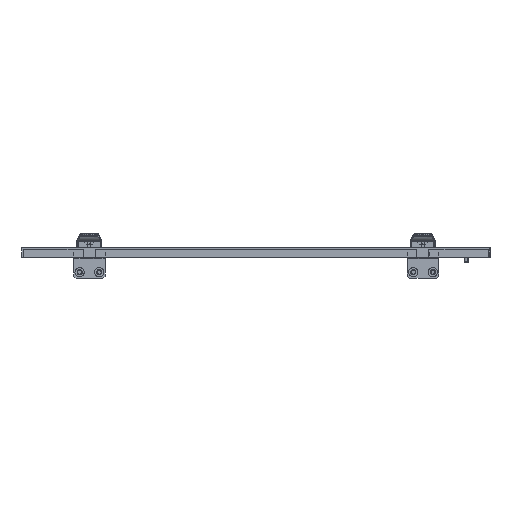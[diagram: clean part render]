
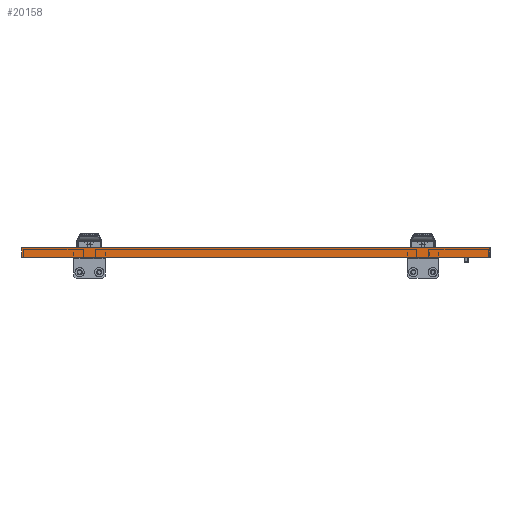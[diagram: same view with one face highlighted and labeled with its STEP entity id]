
A CAD part, left-side view. The second image highlights one B-rep face of the part: STEP entity #20158.
In plain terms, the highlighted planar face has unit normal (-1, 0, 0).
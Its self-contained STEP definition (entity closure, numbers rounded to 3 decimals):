
#18 = CARTESIAN_POINT ( 'NONE',  ( -424.77, 69.953, 998.163 ) ) ;
#1030 = VERTEX_POINT ( 'NONE', #5483 ) ;
#1496 = CARTESIAN_POINT ( 'NONE',  ( -424.77, 261.628, 985.663 ) ) ;
#1797 = CARTESIAN_POINT ( 'NONE',  ( -424.77, -228.047, 998.163 ) ) ;
#2222 = VERTEX_POINT ( 'NONE', #4362 ) ;
#2333 = ORIENTED_EDGE ( 'NONE', *, *, #9096, .T. ) ;
#3170 = CARTESIAN_POINT ( 'NONE',  ( -424.77, 261.628, 985.663 ) ) ;
#3410 = CARTESIAN_POINT ( 'NONE',  ( -424.77, 367.953, 1001.001 ) ) ;
#4362 = CARTESIAN_POINT ( 'NONE',  ( -424.77, 367.953, 985.663 ) ) ;
#4852 = VERTEX_POINT ( 'NONE', #9020 ) ;
#4937 = LINE ( 'NONE', #18, #9487 ) ;
#5025 = PLANE ( 'NONE',  #13350 ) ;
#5037 = DIRECTION ( 'NONE',  ( 0., 1., 0. ) ) ;
#5483 = CARTESIAN_POINT ( 'NONE',  ( -424.77, 367.953, 998.163 ) ) ;
#6686 = FACE_OUTER_BOUND ( 'NONE', #10215, .T. ) ;
#7125 = ORIENTED_EDGE ( 'NONE', *, *, #16984, .F. ) ;
#7301 = VECTOR ( 'NONE', #11696, 1000. ) ;
#7606 = LINE ( 'NONE', #14309, #17146 ) ;
#8044 = VECTOR ( 'NONE', #10123, 1000. ) ;
#8669 = EDGE_CURVE ( 'NONE', #4852, #2222, #16634, .T. ) ;
#9020 = CARTESIAN_POINT ( 'NONE',  ( -424.77, -228.047, 985.663 ) ) ;
#9096 = EDGE_CURVE ( 'NONE', #1030, #2222, #18465, .T. ) ;
#9487 = VECTOR ( 'NONE', #5037, 1000. ) ;
#9651 = DIRECTION ( 'NONE',  ( 0., 0., 1. ) ) ;
#10123 = DIRECTION ( 'NONE',  ( 0., 0., -1. ) ) ;
#10215 = EDGE_LOOP ( 'NONE', ( #14325, #7125, #20586, #2333 ) ) ;
#10306 = VERTEX_POINT ( 'NONE', #1797 ) ;
#11696 = DIRECTION ( 'NONE',  ( 0., 1., 0. ) ) ;
#13350 = AXIS2_PLACEMENT_3D ( 'NONE', #3170, #21394, #9651 ) ;
#13603 = EDGE_CURVE ( 'NONE', #10306, #1030, #4937, .T. ) ;
#14309 = CARTESIAN_POINT ( 'NONE',  ( -424.77, -228.047, 1001.001 ) ) ;
#14325 = ORIENTED_EDGE ( 'NONE', *, *, #8669, .F. ) ;
#16634 = LINE ( 'NONE', #1496, #7301 ) ;
#16984 = EDGE_CURVE ( 'NONE', #10306, #4852, #7606, .T. ) ;
#17146 = VECTOR ( 'NONE', #17707, 1000. ) ;
#17707 = DIRECTION ( 'NONE',  ( 0., 0., -1. ) ) ;
#18465 = LINE ( 'NONE', #3410, #8044 ) ;
#20158 = ADVANCED_FACE ( 'NONE', ( #6686 ), #5025, .T. ) ;
#20586 = ORIENTED_EDGE ( 'NONE', *, *, #13603, .T. ) ;
#21394 = DIRECTION ( 'NONE',  ( -1., 0., 0. ) ) ;
